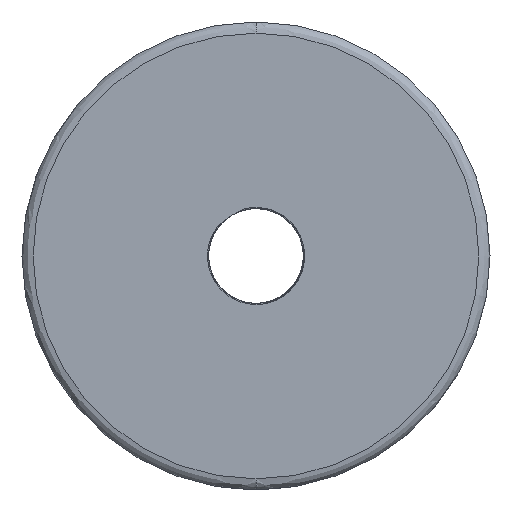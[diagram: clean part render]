
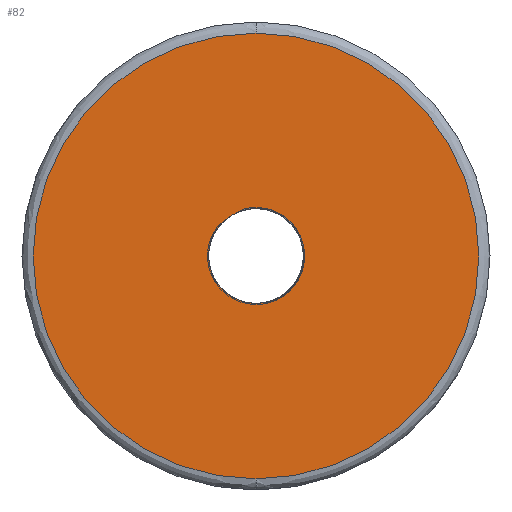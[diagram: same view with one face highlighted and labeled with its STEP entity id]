
A CAD part, front view. The second image highlights one B-rep face of the part: STEP entity #82.
In plain terms, the highlighted free-form (B-spline) face has degree [1, 1] with [2, 2] control points.
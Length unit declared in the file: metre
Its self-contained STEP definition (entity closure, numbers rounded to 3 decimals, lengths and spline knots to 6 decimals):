
#82 = ADVANCED_FACE( '', ( #149, #150 ), #151, .F. );
#149 = FACE_BOUND( '', #636, .T. );
#150 = FACE_OUTER_BOUND( '', #637, .T. );
#151 = B_SPLINE_SURFACE_WITH_KNOTS( '', 1, 1, ( ( #638, #639 ), ( #640, #641 ) ), .UNSPECIFIED., .F., .F., .F., ( 2, 2 ), ( 2, 2 ), ( 0., 1. ), ( 0., 1. ), .UNSPECIFIED. );
#636 = EDGE_LOOP( '', ( #1405, #1406, #1407, #1408, #1409, #1410 ) );
#637 = EDGE_LOOP( '', ( #1411, #1412 ) );
#638 = CARTESIAN_POINT( '', ( -0.02024, 0., -0.02024 ) );
#639 = CARTESIAN_POINT( '', ( 0.02024, 0., -0.02024 ) );
#640 = CARTESIAN_POINT( '', ( -0.02024, 0., 0.02024 ) );
#641 = CARTESIAN_POINT( '', ( 0.02024, 0., 0.02024 ) );
#1405 = ORIENTED_EDGE( '', *, *, #1835, .F. );
#1406 = ORIENTED_EDGE( '', *, *, #1845, .F. );
#1407 = ORIENTED_EDGE( '', *, *, #1886, .F. );
#1408 = ORIENTED_EDGE( '', *, *, #1887, .F. );
#1409 = ORIENTED_EDGE( '', *, *, #1888, .F. );
#1410 = ORIENTED_EDGE( '', *, *, #1868, .F. );
#1411 = ORIENTED_EDGE( '', *, *, #1889, .F. );
#1412 = ORIENTED_EDGE( '', *, *, #1890, .F. );
#1835 = EDGE_CURVE( '', #1994, #1995, #1996, .F. );
#1845 = EDGE_CURVE( '', #2012, #1994, #2014, .F. );
#1868 = EDGE_CURVE( '', #1995, #2059, #2060, .T. );
#1886 = EDGE_CURVE( '', #2093, #2012, #2094, .T. );
#1887 = EDGE_CURVE( '', #2095, #2093, #2096, .T. );
#1888 = EDGE_CURVE( '', #2059, #2095, #2097, .T. );
#1889 = EDGE_CURVE( '', #2098, #2099, #2100, .T. );
#1890 = EDGE_CURVE( '', #2099, #2098, #2101, .T. );
#1994 = VERTEX_POINT( '', #2255 );
#1995 = VERTEX_POINT( '', #2256 );
#1996 = CIRCLE( '', #2257, 0.004354 );
#2012 = VERTEX_POINT( '', #2331 );
#2014 = CIRCLE( '', #2350, 0.004354 );
#2059 = VERTEX_POINT( '', #3047 );
#2060 = LINE( '', #3048, #3049 );
#2093 = VERTEX_POINT( '', #3489 );
#2094 = LINE( '', #3490, #3491 );
#2095 = VERTEX_POINT( '', #3492 );
#2096 = CIRCLE( '', #3493, 0.00425 );
#2097 = CIRCLE( '', #3494, 0.00425 );
#2098 = VERTEX_POINT( '', #3495 );
#2099 = VERTEX_POINT( '', #3496 );
#2100 = CIRCLE( '', #3497, 0.02 );
#2101 = CIRCLE( '', #3498, 0.02 );
#2255 = CARTESIAN_POINT( '', ( 0., 0., 0.004354 ) );
#2256 = CARTESIAN_POINT( '', ( -0.001024, 0., 0.004232 ) );
#2257 = AXIS2_PLACEMENT_3D( '', #4580, #4581, #4582 );
#2331 = CARTESIAN_POINT( '', ( 0.004246, 0., -0.000966 ) );
#2350 = AXIS2_PLACEMENT_3D( '', #4591, #4592, #4593 );
#3047 = CARTESIAN_POINT( '', ( -0.001873, 0., 0.003815 ) );
#3048 = CARTESIAN_POINT( '', ( -0.001453, 0., 0.004021 ) );
#3049 = VECTOR( '', #4594, 1. );
#3489 = CARTESIAN_POINT( '', ( 0.00425, 0., -0.00002 ) );
#3490 = CARTESIAN_POINT( '', ( 0.004248, 0., -0.000488 ) );
#3491 = VECTOR( '', #4596, 1. );
#3492 = CARTESIAN_POINT( '', ( 0., 0., -0.00425 ) );
#3493 = AXIS2_PLACEMENT_3D( '', #4597, #4598, #4599 );
#3494 = AXIS2_PLACEMENT_3D( '', #4600, #4601, #4602 );
#3495 = CARTESIAN_POINT( '', ( 0., 0., 0.02 ) );
#3496 = CARTESIAN_POINT( '', ( 0., 0., -0.02 ) );
#3497 = AXIS2_PLACEMENT_3D( '', #4603, #4604, #4605 );
#3498 = AXIS2_PLACEMENT_3D( '', #4606, #4607, #4608 );
#4580 = CARTESIAN_POINT( '', ( 0., 0., 0. ) );
#4581 = DIRECTION( '', ( 0., 1., 0. ) );
#4582 = DIRECTION( '', ( 0., 0., 1. ) );
#4591 = CARTESIAN_POINT( '', ( 0., 0., 0. ) );
#4592 = DIRECTION( '', ( 0., 1., 0. ) );
#4593 = DIRECTION( '', ( 0., 0., 1. ) );
#4594 = DIRECTION( '', ( -0.898, 0., -0.441 ) );
#4596 = DIRECTION( '', ( -0.005, 0., -1. ) );
#4597 = CARTESIAN_POINT( '', ( 0., 0., 0. ) );
#4598 = DIRECTION( '', ( 0., -1., 0. ) );
#4599 = DIRECTION( '', ( 0., 0., -1. ) );
#4600 = CARTESIAN_POINT( '', ( 0., 0., 0. ) );
#4601 = DIRECTION( '', ( 0., -1., 0. ) );
#4602 = DIRECTION( '', ( 0., 0., -1. ) );
#4603 = CARTESIAN_POINT( '', ( 0., 0., 0. ) );
#4604 = DIRECTION( '', ( 0., 1., 0. ) );
#4605 = DIRECTION( '', ( -1., 0., 0. ) );
#4606 = CARTESIAN_POINT( '', ( 0., 0., 0. ) );
#4607 = DIRECTION( '', ( 0., 1., 0. ) );
#4608 = DIRECTION( '', ( -1., 0., 0. ) );
